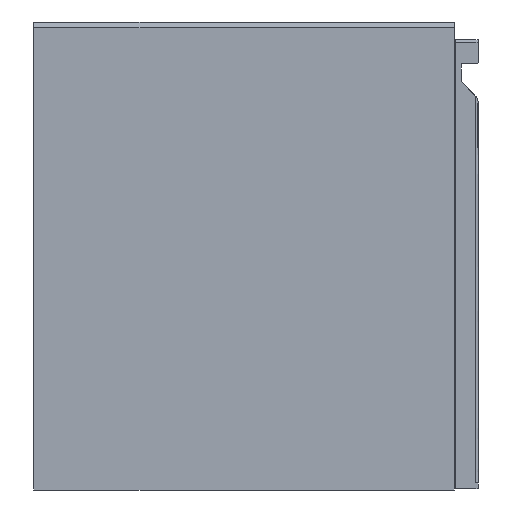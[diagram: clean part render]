
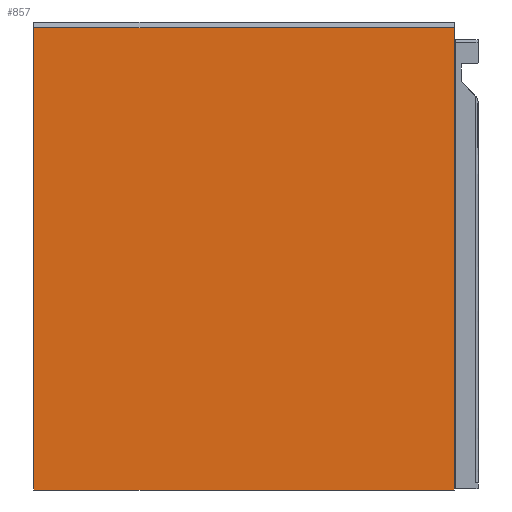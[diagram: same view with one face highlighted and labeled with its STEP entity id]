
A CAD part, left-side view. The second image highlights one B-rep face of the part: STEP entity #857.
In plain terms, the highlighted planar face has unit normal (-1, 0, 0).
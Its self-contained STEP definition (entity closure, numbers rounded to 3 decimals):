
#857=ADVANCED_FACE('',(#1375),#8915,.T.);
#1375=FACE_OUTER_BOUND('',#1955,.T.);
#1955=EDGE_LOOP('',(#4609,#4610,#4611,#4612));
#4609=ORIENTED_EDGE('',*,*,#6122,.F.);
#4610=ORIENTED_EDGE('',*,*,#6123,.T.);
#4611=ORIENTED_EDGE('',*,*,#6118,.F.);
#4612=ORIENTED_EDGE('',*,*,#6124,.T.);
#6118=EDGE_CURVE('',#8514,#8511,#7186,.T.);
#6122=EDGE_CURVE('',#8518,#8515,#7190,.T.);
#6123=EDGE_CURVE('',#8518,#8511,#7191,.T.);
#6124=EDGE_CURVE('',#8514,#8515,#7192,.T.);
#7186=B_SPLINE_CURVE_WITH_KNOTS('',1,(#16954,#16955),.UNSPECIFIED.,.F.,
 .F.,(2,2),(-352.,0.),.UNSPECIFIED.);
#7190=B_SPLINE_CURVE_WITH_KNOTS('',1,(#16962,#16963),.UNSPECIFIED.,.F.,
 .F.,(2,2),(0.,352.),.UNSPECIFIED.);
#7191=B_SPLINE_CURVE_WITH_KNOTS('',1,(#16964,#16965),.UNSPECIFIED.,.F.,
 .F.,(2,2),(-387.,0.),.UNSPECIFIED.);
#7192=B_SPLINE_CURVE_WITH_KNOTS('',1,(#16966,#16967),.UNSPECIFIED.,.F.,
 .F.,(2,2),(0.,387.),.UNSPECIFIED.);
#8511=VERTEX_POINT('',#16938);
#8514=VERTEX_POINT('',#16941);
#8515=VERTEX_POINT('',#16942);
#8518=VERTEX_POINT('',#16945);
#8915=PLANE('',#9854);
#9854=AXIS2_PLACEMENT_3D('',#16933,#10317,$);
#10317=DIRECTION('',(-1.,0.,0.));
#16933=CARTESIAN_POINT('',(1684.673,-741.362,-309.322));
#16938=CARTESIAN_POINT('',(1684.673,-354.042,-270.502));
#16941=CARTESIAN_POINT('',(1684.673,-706.042,-270.502));
#16942=CARTESIAN_POINT('',(1684.673,-706.042,116.498));
#16945=CARTESIAN_POINT('',(1684.673,-354.042,116.498));
#16954=CARTESIAN_POINT('',(1684.673,-706.042,-270.502));
#16955=CARTESIAN_POINT('',(1684.673,-354.042,-270.502));
#16962=CARTESIAN_POINT('',(1684.673,-354.042,116.498));
#16963=CARTESIAN_POINT('',(1684.673,-706.042,116.498));
#16964=CARTESIAN_POINT('',(1684.673,-354.042,116.498));
#16965=CARTESIAN_POINT('',(1684.673,-354.042,-270.502));
#16966=CARTESIAN_POINT('',(1684.673,-706.042,-270.502));
#16967=CARTESIAN_POINT('',(1684.673,-706.042,116.498));
